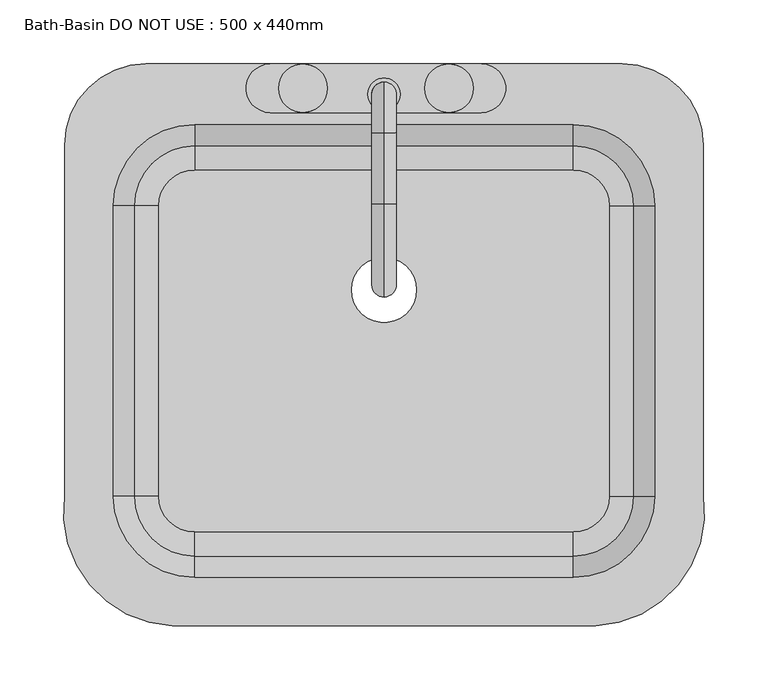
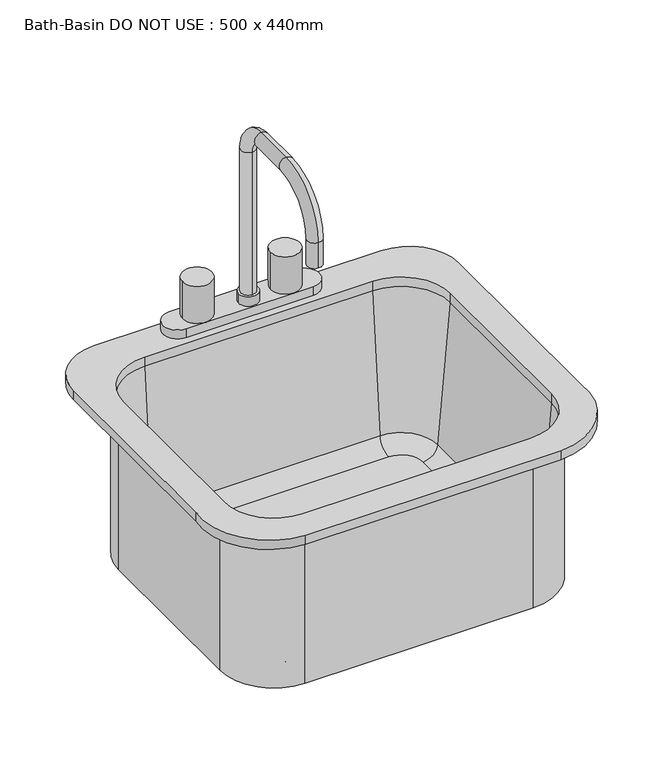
"""IFC4 building model written with IfcOpenShell, lengths in millimetres: flow terminal geometry, Bath-Basin DO NOT USE : 500 x 440mm."""

from ifc_helpers import new_model, si_unit, point, frame, origin, place, context, project, spatial, polyline, circle_curve, ellipse_curve, trimmed, source, transform, mapped, element, save
from ifc_brep_helpers import plane_surface, cylinder_surface, revolved_surface, advanced_brep


def bath_basin_do_not_use_500_x_440mm_14db80bf(model_context):
    return source(origin(), model_context, "Body", "AdvancedBrep", [
        advanced_brep(
        [(233.9208812, 69.0204011, 546.1), (164.0708812, 138.8704011, 546.1), (164.0708812, 138.8704011, 762.0), (233.9208812, 69.0204011, 762.0), (233.9208812, -158.2897551, 546.1), (164.0708812, -228.1397551, 546.1), (-132.6924001, -228.1397551, 546.1), (-202.5424001, -158.2897551, 546.1), (-202.5424001, 69.0204011, 546.1), (-132.6924001, 138.8704011, 546.1), (-9.7107594, 3.175, 546.1), (41.0892406, 3.175, 546.1), (192.0592994, 69.0204011, 555.625), (164.0708812, 97.0088193, 555.625), (-132.6924001, 97.0088193, 555.625), (-160.6808183, 69.0204011, 555.625), (-160.6808183, -158.2897551, 555.625), (-132.6924001, -186.2781733, 555.625), (164.0708812, -186.2781733, 555.625), (192.0592994, -158.2897551, 555.625), (-9.7107594, 3.175, 555.625), (41.0892406, 3.175, 555.625), (211.0368084, 69.0204011, 573.0146831), (164.0708812, 115.9863283, 573.0146831), (227.5708812, 69.0204011, 762.0), (164.0708812, 132.5204011, 762.0), (233.9208812, -158.2897551, 762.0), (211.0368084, -158.2897551, 573.0146831), (227.5708812, -158.2897551, 762.0), (164.0708812, -228.1397551, 762.0), (164.0708812, -205.2556823, 573.0146831), (164.0708812, -221.7897551, 762.0), (-132.6924001, -228.1397551, 762.0), (-132.6924001, -205.2556823, 573.0146831), (-132.6924001, -221.7897551, 762.0), (-202.5424001, -158.2897551, 762.0), (-179.6583273, -158.2897551, 573.0146831), (-196.1924001, -158.2897551, 762.0), (-202.5424001, 69.0204011, 762.0), (-179.6583273, 69.0204011, 573.0146831), (-196.1924001, 69.0204011, 762.0), (-132.6924001, 138.8704011, 762.0), (-132.6924001, 115.9863283, 573.0146831), (-132.6924001, 132.5204011, 762.0), (-149.942333, -259.8897551, 774.7), (181.3208141, -259.8897551, 774.7), (265.6708812, -158.2897551, 774.7), (265.6708812, 116.6454011, 774.7), (202.1708812, 180.1454011, 774.7), (-170.7924, 180.1454011, 774.7), (-234.2924, 116.6454011, 774.7), (-234.2924, -158.2897544, 774.7), (164.0708812, 132.5204011, 774.7), (227.5708812, 69.0204011, 774.7), (227.5708812, -158.2897551, 774.7), (164.0708812, -221.7897551, 774.7), (-132.6924001, -221.7897551, 774.7), (-196.1924001, -158.2897551, 774.7), (-196.1924001, 69.0204011, 774.7), (-132.6924001, 132.5204011, 774.7), (-149.942333, -259.8897551, 762.0), (-234.2924, -158.2897544, 762.0), (-234.2924, 116.6454011, 762.0), (-170.7924, 180.1454011, 762.0), (202.1708812, 180.1454011, 762.0), (265.6708812, 116.6454011, 762.0), (265.6708812, -158.2897551, 762.0), (181.3208141, -259.8897551, 762.0)],
        [
            (0, 1, circle_curve(frame((164.0708812, 69.0204011, 546.1), z_axis=(0.0, 0.0, 1.0), x_axis=(0.0, 1.0, 0.0)), 69.85)),
            (1, 2),
            (2, 3, circle_curve(frame((164.0708812, 69.0204011, 762.0), z_axis=(0.0, 0.0, -1.0), x_axis=(0.0, 1.0, 0.0)), 69.85)),
            (3, 0),
            (0, 4),
            (4, 5, circle_curve(frame((164.0708812, -158.2897551, 546.1), z_axis=(0.0, 0.0, -1.0), x_axis=(1.0, 0.0, 0.0)), 69.85)),
            (5, 6),
            (6, 7, circle_curve(frame((-132.6924001, -158.2897551, 546.1), z_axis=(0.0, 0.0, -1.0), x_axis=(0.0, -1.0, 0.0)), 69.85)),
            (7, 8),
            (8, 9, circle_curve(frame((-132.6924001, 69.0204011, 546.1), z_axis=(0.0, 0.0, -1.0), x_axis=(-1.0, 0.0, 0.0)), 69.85)),
            (9, 1),
            (10, 11, circle_curve(frame((15.6892406, 3.175, 546.1), z_axis=(0.0, 0.0, 1.0), x_axis=(1.0, 0.0, 0.0)), 25.4)),
            (11, 10, circle_curve(frame((15.6892406, 3.175, 546.1), z_axis=(0.0, 0.0, 1.0), x_axis=(1.0, 0.0, 0.0)), 25.4)),
            (12, 13, circle_curve(frame((164.0708812, 69.0204011, 555.625), z_axis=(0.0, 0.0, 1.0), x_axis=(0.0, 1.0, 0.0)), 27.9884182)),
            (13, 14),
            (14, 15, circle_curve(frame((-132.6924001, 69.0204011, 555.625), z_axis=(0.0, 0.0, 1.0), x_axis=(-1.0, 0.0, 0.0)), 27.9884182)),
            (15, 16),
            (16, 17, circle_curve(frame((-132.6924001, -158.2897551, 555.625), z_axis=(0.0, 0.0, 1.0), x_axis=(0.0, -1.0, 0.0)), 27.9884182)),
            (17, 18),
            (18, 19, circle_curve(frame((164.0708812, -158.2897551, 555.625), z_axis=(0.0, 0.0, 1.0), x_axis=(1.0, 0.0, 0.0)), 27.9884182)),
            (19, 12),
            (20, 21, circle_curve(frame((15.6892406, 3.175, 555.625), z_axis=(0.0, 0.0, -1.0), x_axis=(1.0, 0.0, 0.0)), 25.4)),
            (21, 20, circle_curve(frame((15.6892406, 3.175, 555.625), z_axis=(0.0, 0.0, -1.0), x_axis=(1.0, 0.0, 0.0)), 25.4)),
            (12, 22, circle_curve(frame((192.0592994, 69.0204011, 574.675), z_axis=(0.0, -1.0, 0.0), x_axis=(1.0, 0.0, 0.0)), 19.05)),
            (22, 23, circle_curve(frame((164.0708812, 69.0204011, 573.0146831), z_axis=(0.0, 0.0, 1.0), x_axis=(0.0, 1.0, 0.0)), 46.9659272)),
            (23, 13, circle_curve(frame((164.0708812, 97.0088193, 574.675), z_axis=(-1.0, 0.0, 0.0), x_axis=(0.0, 1.0, 0.0)), 19.05)),
            (22, 24),
            (24, 25, circle_curve(frame((164.0708812, 69.0204011, 762.0), z_axis=(0.0, 0.0, 1.0), x_axis=(0.0, 1.0, 0.0)), 63.5)),
            (25, 23),
            (3, 26),
            (26, 4),
            (19, 27, circle_curve(frame((192.0592994, -158.2897551, 574.675), z_axis=(0.0, -1.0, 0.0), x_axis=(1.0, 0.0, 0.0)), 19.05)),
            (27, 22),
            (27, 28),
            (28, 24),
            (26, 29, circle_curve(frame((164.0708812, -158.2897551, 762.0), z_axis=(0.0, 0.0, -1.0), x_axis=(1.0, 0.0, 0.0)), 69.85)),
            (29, 5),
            (18, 30, circle_curve(frame((164.0708812, -186.2781733, 574.675), z_axis=(-1.0, 0.0, 0.0), x_axis=(0.0, -1.0, 0.0)), 19.05)),
            (30, 27, circle_curve(frame((164.0708812, -158.2897551, 573.0146831), z_axis=(0.0, 0.0, 1.0), x_axis=(1.0, 0.0, 0.0)), 46.9659272)),
            (30, 31),
            (31, 28, circle_curve(frame((164.0708812, -158.2897551, 762.0), z_axis=(0.0, 0.0, 1.0), x_axis=(1.0, 0.0, 0.0)), 63.5)),
            (29, 32),
            (32, 6),
            (17, 33, circle_curve(frame((-132.6924001, -186.2781733, 574.675), z_axis=(-1.0, 0.0, 0.0), x_axis=(0.0, -1.0, 0.0)), 19.05)),
            (33, 30),
            (33, 34),
            (34, 31),
            (32, 35, circle_curve(frame((-132.6924001, -158.2897551, 762.0), z_axis=(0.0, 0.0, -1.0), x_axis=(0.0, -1.0, 0.0)), 69.85)),
            (35, 7),
            (16, 36, circle_curve(frame((-160.6808183, -158.2897551, 574.675), z_axis=(0.0, 1.0, 0.0), x_axis=(-1.0, 0.0, 0.0)), 19.05)),
            (36, 33, circle_curve(frame((-132.6924001, -158.2897551, 573.0146831), z_axis=(0.0, 0.0, 1.0), x_axis=(0.0, -1.0, 0.0)), 46.9659272)),
            (36, 37),
            (37, 34, circle_curve(frame((-132.6924001, -158.2897551, 762.0), z_axis=(0.0, 0.0, 1.0), x_axis=(0.0, -1.0, 0.0)), 63.5)),
            (35, 38),
            (38, 8),
            (15, 39, circle_curve(frame((-160.6808183, 69.0204011, 574.675), z_axis=(0.0, 1.0, 0.0), x_axis=(-1.0, 0.0, 0.0)), 19.05)),
            (39, 36),
            (39, 40),
            (40, 37),
            (38, 41, circle_curve(frame((-132.6924001, 69.0204011, 762.0), z_axis=(0.0, 0.0, -1.0), x_axis=(-1.0, 0.0, 0.0)), 69.85)),
            (41, 9),
            (14, 42, circle_curve(frame((-132.6924001, 97.0088193, 574.675), z_axis=(1.0, 0.0, 0.0), x_axis=(0.0, 1.0, 0.0)), 19.05)),
            (42, 39, circle_curve(frame((-132.6924001, 69.0204011, 573.0146831), z_axis=(0.0, 0.0, 1.0), x_axis=(-1.0, 0.0, 0.0)), 46.9659272)),
            (42, 43),
            (43, 40, circle_curve(frame((-132.6924001, 69.0204011, 762.0), z_axis=(0.0, 0.0, 1.0), x_axis=(-1.0, 0.0, 0.0)), 63.5)),
            (41, 2),
            (23, 42),
            (25, 43),
            (20, 10),
            (11, 21),
            (44, 45),
            (45, 46, circle_curve(frame((177.5135964, -170.9144994, 774.7), z_axis=(0.0, 0.0, 1.0), x_axis=(1.0, 0.0, 0.0)), 89.0566732)),
            (46, 47),
            (47, 48, circle_curve(frame((202.1708812, 116.6454011, 774.7), z_axis=(0.0, 0.0, 1.0), x_axis=(1.0, 0.0, 0.0)), 63.5)),
            (48, 49),
            (49, 50, circle_curve(frame((-170.7924, 116.6454011, 774.7), z_axis=(0.0, 0.0, 1.0), x_axis=(1.0, 0.0, 0.0)), 63.5)),
            (50, 51),
            (51, 44, circle_curve(frame((-146.1351153, -170.9144994, 774.7), z_axis=(0.0, 0.0, 1.0), x_axis=(1.0, 0.0, 0.0)), 89.0566732)),
            (52, 53, circle_curve(frame((164.0708812, 69.0204011, 774.7), z_axis=(0.0, 0.0, -1.0), x_axis=(1.0, 0.0, 0.0)), 63.5)),
            (53, 54),
            (54, 55, circle_curve(frame((164.0708812, -158.2897551, 774.7), z_axis=(0.0, 0.0, -1.0), x_axis=(1.0, 0.0, 0.0)), 63.5)),
            (55, 56),
            (56, 57, circle_curve(frame((-132.6924001, -158.2897551, 774.7), z_axis=(0.0, 0.0, -1.0), x_axis=(1.0, 0.0, 0.0)), 63.5)),
            (57, 58),
            (58, 59, circle_curve(frame((-132.6924001, 69.0204011, 774.7), z_axis=(0.0, 0.0, -1.0), x_axis=(1.0, 0.0, 0.0)), 63.5)),
            (59, 52),
            (60, 61, circle_curve(frame((-146.1351153, -170.9144994, 762.0), z_axis=(0.0, 0.0, -1.0), x_axis=(1.0, 0.0, 0.0)), 89.0566732)),
            (61, 62),
            (62, 63, circle_curve(frame((-170.7924, 116.6454011, 762.0), z_axis=(0.0, 0.0, -1.0), x_axis=(1.0, 0.0, 0.0)), 63.5)),
            (63, 64),
            (64, 65, circle_curve(frame((202.1708812, 116.6454011, 762.0), z_axis=(0.0, 0.0, -1.0), x_axis=(1.0, 0.0, 0.0)), 63.5)),
            (65, 66),
            (66, 67, circle_curve(frame((177.5135964, -170.9144994, 762.0), z_axis=(0.0, 0.0, -1.0), x_axis=(1.0, 0.0, 0.0)), 89.0566732)),
            (67, 60),
            (44, 60),
            (67, 45),
            (66, 46),
            (65, 47),
            (64, 48),
            (63, 49),
            (62, 50),
            (61, 51),
            (52, 25),
            (24, 53),
            (28, 54),
            (31, 55),
            (34, 56),
            (37, 57),
            (40, 58),
            (43, 59),
        ],
        [
            cylinder_surface(frame((164.0708812, 69.0204011, 0.0), z_axis=(0.0, 0.0, -1.0), x_axis=(0.0, 1.0, 0.0)), 69.85),
            plane_surface(frame((164.0708812, 69.0204011, 546.1), z_axis=(0.0, 0.0, -1.0), x_axis=(0.0, 1.0, 0.0))),
            plane_surface(frame((164.0708812, 69.0204011, 555.625), z_axis=(0.0, 0.0, 1.0), x_axis=(0.0, 1.0, 0.0))),
            revolved_surface(trimmed(ellipse_curve(frame((164.0708812, 97.0088193, 574.675), z_axis=(1.0, 0.0, 0.0), x_axis=(0.0, 1.0, 0.0)), 19.05, 19.05), [point((164.0708812, 97.0088193, 555.625))], [point((164.0708812, 115.9863283, 573.0146831))], True, "CARTESIAN"), (164.0708812, 69.0204011, 0.0), (0.0, 0.0, -1.0)),
            revolved_surface(polyline([(164.0708812, 115.9863283, 573.0146831), (164.0708812, 132.5204011, 762.0)]), (164.0708812, 69.0204011, 0.0), (0.0, 0.0, -1.0)),
            plane_surface(frame((233.9208812, 69.0204011, 762.0), z_axis=(1.0, 0.0, 0.0), x_axis=(0.0, -1.0, 0.0))),
            revolved_surface(polyline([(211.1092994, -158.28975509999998, 574.675), (211.1092994, 69.0204011, 574.675)]), (192.0592994, 69.0204011, 574.675), (0.0, -1.0, 0.0)),
            plane_surface(frame((211.0368084, 69.0204011, 573.0146831), z_axis=(-0.9961946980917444, 0.0, 0.08715574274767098), x_axis=(0.0, -1.0, 0.0))),
            cylinder_surface(frame((164.0708812, -158.2897551, 0.0), z_axis=(0.0, 0.0, -1.0), x_axis=(1.0, 0.0, 0.0)), 69.85),
            revolved_surface(trimmed(ellipse_curve(frame((192.0592994, -158.2897551, 574.675), z_axis=(0.0, -1.0, 0.0), x_axis=(1.0, 0.0, 0.0)), 19.05, 19.05), [point((192.0592994, -158.2897551, 555.625))], [point((211.0368084, -158.2897551, 573.0146831))], True, "CARTESIAN"), (164.0708812, -158.2897551, 0.0), (0.0, 0.0, -1.0)),
            revolved_surface(polyline([(211.0368084, -158.2897551, 573.0146831), (227.5708812, -158.2897551, 762.0)]), (164.0708812, -158.2897551, 0.0), (0.0, 0.0, -1.0)),
            plane_surface(frame((164.0708812, -228.1397551, 762.0), z_axis=(0.0, -1.0, 0.0), x_axis=(-1.0, 0.0, 0.0))),
            revolved_surface(polyline([(-132.69240010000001, -205.3281733, 574.675), (164.0708812, -205.3281733, 574.675)]), (164.0708812, -186.2781733, 574.675), (-1.0, 0.0, 0.0)),
            plane_surface(frame((164.0708812, -205.2556823, 573.0146831), z_axis=(0.0, 0.9961946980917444, 0.08715574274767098), x_axis=(-1.0, 0.0, 0.0))),
            cylinder_surface(frame((-132.6924001, -158.2897551, 0.0), z_axis=(0.0, 0.0, -1.0), x_axis=(0.0, -1.0, 0.0)), 69.85),
            revolved_surface(trimmed(ellipse_curve(frame((-132.6924001, -186.2781733, 574.675), z_axis=(-1.0, 0.0, 0.0), x_axis=(0.0, -1.0, 0.0)), 19.05, 19.05), [point((-132.6924001, -186.2781733, 555.625))], [point((-132.6924001, -205.2556823, 573.0146831))], True, "CARTESIAN"), (-132.6924001, -158.2897551, 0.0), (0.0, 0.0, -1.0)),
            revolved_surface(polyline([(-132.6924001, -205.2556823, 573.0146831), (-132.6924001, -221.7897551, 762.0)]), (-132.6924001, -158.2897551, 0.0), (0.0, 0.0, -1.0)),
            plane_surface(frame((-202.5424001, -158.2897551, 762.0), z_axis=(-1.0, 0.0, 0.0), x_axis=(0.0, 1.0, 0.0))),
            revolved_surface(polyline([(-179.7308183, 69.02040109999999, 574.675), (-179.7308183, -158.2897551, 574.675)]), (-160.6808183, -158.2897551, 574.675), (0.0, 1.0, 0.0)),
            plane_surface(frame((-179.6583273, -158.2897551, 573.0146831), z_axis=(0.9961946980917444, 0.0, 0.08715574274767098), x_axis=(0.0, 1.0, 0.0))),
            cylinder_surface(frame((-132.6924001, 69.0204011, 0.0), z_axis=(0.0, 0.0, -1.0), x_axis=(-1.0, 0.0, 0.0)), 69.85),
            revolved_surface(trimmed(ellipse_curve(frame((-160.6808183, 69.0204011, 574.675), z_axis=(0.0, 1.0, 0.0), x_axis=(-1.0, 0.0, 0.0)), 19.05, 19.05), [point((-160.6808183, 69.0204011, 555.625))], [point((-179.6583273, 69.0204011, 573.0146831))], True, "CARTESIAN"), (-132.6924001, 69.0204011, 0.0), (0.0, 0.0, -1.0)),
            revolved_surface(polyline([(-179.6583273, 69.0204011, 573.0146831), (-196.1924001, 69.0204011, 762.0)]), (-132.6924001, 69.0204011, 0.0), (0.0, 0.0, -1.0)),
            plane_surface(frame((-132.6924001, 138.8704011, 762.0), z_axis=(0.0, 1.0, 0.0), x_axis=(1.0, 0.0, 0.0))),
            revolved_surface(polyline([(164.07088120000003, 116.0588193, 574.675), (-132.6924001, 116.0588193, 574.675)]), (-132.6924001, 97.0088193, 574.675), (1.0, 0.0, 0.0)),
            plane_surface(frame((-132.6924001, 115.9863283, 573.0146831), z_axis=(0.0, -0.9961946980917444, 0.08715574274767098), x_axis=(1.0, 0.0, 0.0))),
            revolved_surface(polyline([(41.0892406, 3.175, 546.1), (41.0892406, 3.175, 555.625)]), (15.6892406, 3.175, 0.0), (0.0, 0.0, -1.0)),
            plane_surface(frame((181.3208141, -259.8897551, 774.7), z_axis=(0.0, 0.0, 1.0), x_axis=(1.0, 0.0, 0.0))),
            plane_surface(frame((181.3208141, -259.8897551, 762.0), z_axis=(0.0, 0.0, -1.0), x_axis=(-1.0, 0.0, 0.0))),
            plane_surface(frame((-149.942333, -259.8897551, 774.7), z_axis=(0.0, -1.0, 0.0), x_axis=(0.0, 0.0, -1.0))),
            cylinder_surface(frame((177.5135964, -170.9144994, 762.0), z_axis=(0.0, 0.0, 1.0), x_axis=(1.0, 0.0, 0.0)), 89.0566732),
            plane_surface(frame((265.6708812, -158.2897551, 774.7), z_axis=(1.0, 0.0, 0.0), x_axis=(0.0, 0.0, -1.0))),
            cylinder_surface(frame((202.1708812, 116.6454011, 762.0), z_axis=(0.0, 0.0, 1.0), x_axis=(1.0, 0.0, 0.0)), 63.5),
            plane_surface(frame((202.1708812, 180.1454011, 774.7), z_axis=(0.0, 1.0, 0.0), x_axis=(0.0, 0.0, -1.0))),
            cylinder_surface(frame((-170.7924, 116.6454011, 762.0), z_axis=(0.0, 0.0, 1.0), x_axis=(1.0, 0.0, 0.0)), 63.5),
            plane_surface(frame((-234.2924, 116.6454011, 774.7), z_axis=(-1.0, 0.0, 0.0), x_axis=(0.0, 0.0, -1.0))),
            cylinder_surface(frame((-146.1351153, -170.9144994, 762.0), z_axis=(0.0, 0.0, 1.0), x_axis=(1.0, 0.0, 0.0)), 89.0566732),
            revolved_surface(polyline([(227.5708812, 69.0204011, 762.0), (227.5708812, 69.0204011, 774.7)]), (164.0708812, 69.0204011, 0.0), (0.0, 0.0, -1.0)),
            plane_surface(frame((227.5708812, 69.0204011, 774.7), z_axis=(-1.0, 0.0, 0.0), x_axis=(0.0, 0.0, -1.0))),
            revolved_surface(polyline([(227.5708812, -158.2897551, 762.0), (227.5708812, -158.2897551, 774.7)]), (164.0708812, -158.2897551, 0.0), (0.0, 0.0, -1.0)),
            plane_surface(frame((164.0708812, -221.7897551, 774.7), z_axis=(0.0, 1.0, 0.0), x_axis=(0.0, 0.0, -1.0))),
            revolved_surface(polyline([(-69.19240009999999, -158.2897551, 762.0), (-69.19240009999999, -158.2897551, 774.7)]), (-132.6924001, -158.2897551, 0.0), (0.0, 0.0, -1.0)),
            plane_surface(frame((-196.1924001, -158.2897551, 774.7), z_axis=(1.0, 0.0, 0.0), x_axis=(0.0, 0.0, -1.0))),
            revolved_surface(polyline([(-69.19240009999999, 69.0204011, 762.0), (-69.19240009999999, 69.0204011, 774.7)]), (-132.6924001, 69.0204011, 0.0), (0.0, 0.0, -1.0)),
            plane_surface(frame((-132.6924001, 132.5204011, 774.7), z_axis=(0.0, -1.0, 0.0), x_axis=(0.0, 0.0, -1.0))),
        ],
        [
            (0, [[1, 2, 3, 4]]),
            (1, [[-1, 5, 6, 7, 8, 9, 10, 11], [12, 13]]),
            (2, [[14, 15, 16, 17, 18, 19, 20, 21], [22, 23]]),
            (3, [[-14, 24, 25, 26]]),
            (4, [[-25, 27, 28, 29]]),
            (5, [[-4, 30, 31, -5]]),
            (6, [[-24, -21, 32, 33]]),
            (7, [[-27, -33, 34, 35]]),
            (8, [[-31, 36, 37, -6]]),
            (9, [[-32, -20, 38, 39]]),
            (10, [[-34, -39, 40, 41]]),
            (11, [[-37, 42, 43, -7]]),
            (12, [[-38, -19, 44, 45]]),
            (13, [[-40, -45, 46, 47]]),
            (14, [[-43, 48, 49, -8]]),
            (15, [[-44, -18, 50, 51]]),
            (16, [[-46, -51, 52, 53]]),
            (17, [[-49, 54, 55, -9]]),
            (18, [[-50, -17, 56, 57]]),
            (19, [[-52, -57, 58, 59]]),
            (20, [[-55, 60, 61, -10]]),
            (21, [[-56, -16, 62, 63]]),
            (22, [[-58, -63, 64, 65]]),
            (23, [[-2, -11, -61, 66]]),
            (24, [[-26, 67, -62, -15]]),
            (25, [[-29, 68, -64, -67]]),
            (26, [[-22, 69, -13, 70]]),
            (26, [[-23, -70, -12, -69]]),
            (27, [[71, 72, 73, 74, 75, 76, 77, 78], [79, 80, 81, 82, 83, 84, 85, 86]]),
            (28, [[87, 88, 89, 90, 91, 92, 93, 94], [-3, -66, -60, -54, -48, -42, -36, -30]]),
            (29, [[-71, 95, -94, 96]]),
            (30, [[-72, -96, -93, 97]]),
            (31, [[-73, -97, -92, 98]]),
            (32, [[-74, -98, -91, 99]]),
            (33, [[-75, -99, -90, 100]]),
            (34, [[-76, -100, -89, 101]]),
            (35, [[-77, -101, -88, 102]]),
            (36, [[-78, -102, -87, -95]]),
            (37, [[-79, 103, -28, 104]]),
            (38, [[-80, -104, -35, 105]]),
            (39, [[-81, -105, -41, 106]]),
            (40, [[-82, -106, -47, 107]]),
            (41, [[-83, -107, -53, 108]]),
            (42, [[-84, -108, -59, 109]]),
            (43, [[-85, -109, -65, 110]]),
            (44, [[-86, -110, -68, -103]]),
        ],
    ),
        advanced_brep(
        [(91.8892406, 180.1454011, 774.7), (91.8892406, 142.0454011, 774.7), (66.4892406, 142.0454011, 774.7), (-47.8107594, 142.0454011, 774.7), (-73.2107594, 142.0454011, 774.7), (-73.2107594, 180.1454011, 774.7), (-47.8107594, 180.1454011, 774.7), (66.4892406, 180.1454011, 774.7), (15.6892406, 165.8579011, 995.3625), (15.6892406, 146.8079011, 995.3625), (15.6892406, 146.8079011, 800.1), (15.6892406, 165.8579011, 800.1), (15.6892406, 126.1704011, 1035.05), (15.6892406, 126.1704011, 1016.0), (15.6892406, 70.6079011, 1035.05), (15.6892406, 70.6079011, 1016.0), (15.6892406, -2.4170989, 962.025), (15.6892406, 16.6329011, 962.025), (15.6892406, -2.4170989, 927.1), (15.6892406, 16.6329011, 927.1), (2.9892406, 156.3329011, 800.1), (28.3892406, 156.3329011, 800.1), (2.9892406, 156.3329011, 787.2), (28.3892406, 156.3329011, 787.2), (-73.2107594, 180.1454011, 787.2), (-73.2107594, 142.0454011, 787.2), (-47.8107594, 142.0454011, 787.2), (-66.8607594, 161.0954011, 787.2), (-47.8107594, 180.1454011, 787.2), (91.8892406, 142.0454011, 787.2), (91.8892406, 180.1454011, 787.2), (66.4892406, 180.1454011, 787.2), (85.5392406, 161.0954011, 787.2), (66.4892406, 142.0454011, 787.2), (-28.7607594, 161.0954011, 787.2), (47.4392406, 161.0954011, 787.2), (-66.8607594, 161.0954011, 838.2), (-28.7607594, 161.0954011, 838.2), (47.4392406, 161.0954011, 838.2), (85.5392406, 161.0954011, 838.2)],
        [
            (0, 1, circle_curve(frame((91.8892406, 161.0954011, 774.7), z_axis=(0.0, 0.0, -1.0), x_axis=(1.0, 0.0, 0.0)), 19.05)),
            (1, 2),
            (2, 3),
            (3, 4),
            (4, 5, circle_curve(frame((-73.2107594, 161.0954011, 774.7), z_axis=(0.0, 0.0, -1.0), x_axis=(1.0, 0.0, 0.0)), 19.05)),
            (5, 6),
            (6, 7),
            (7, 0),
            (8, 9, circle_curve(frame((15.6892406, 156.3329011, 995.3625), z_axis=(0.0, 0.0, -1.0), x_axis=(0.0, -1.0, 0.0)), 9.525)),
            (9, 10),
            (10, 11, circle_curve(frame((15.6892406, 156.3329011, 800.1), z_axis=(0.0, 0.0, 1.0), x_axis=(0.0, -1.0, 0.0)), 9.525)),
            (11, 8),
            (9, 8, circle_curve(frame((15.6892406, 156.3329011, 995.3625), z_axis=(0.0, 0.0, -1.0), x_axis=(0.0, -1.0, 0.0)), 9.525)),
            (11, 10, circle_curve(frame((15.6892406, 156.3329011, 800.1), z_axis=(0.0, 0.0, 1.0), x_axis=(0.0, -1.0, 0.0)), 9.525)),
            (8, 12, circle_curve(frame((15.6892406, 126.1704011, 995.3625), z_axis=(1.0, 0.0, 0.0), x_axis=(0.0, 1.0, 0.0)), 39.6875)),
            (12, 13, circle_curve(frame((15.6892406, 126.1704011, 1025.525), z_axis=(0.0, 1.0, 0.0), x_axis=(0.0, 0.0, -1.0)), 9.525)),
            (13, 9, circle_curve(frame((15.6892406, 126.1704011, 995.3625), z_axis=(-1.0, 0.0, 0.0), x_axis=(0.0, 1.0, 0.0)), 20.6375)),
            (13, 12, circle_curve(frame((15.6892406, 126.1704011, 1025.525), z_axis=(0.0, 1.0, 0.0), x_axis=(0.0, 0.0, -1.0)), 9.525)),
            (12, 14),
            (14, 15, circle_curve(frame((15.6892406, 70.6079011, 1025.525), z_axis=(0.0, 1.0, 0.0), x_axis=(0.0, 0.0, -1.0)), 9.525)),
            (15, 13),
            (15, 14, circle_curve(frame((15.6892406, 70.6079011, 1025.525), z_axis=(0.0, 1.0, 0.0), x_axis=(0.0, 0.0, -1.0)), 9.525)),
            (14, 16, circle_curve(frame((15.6892406, 70.6079011, 962.025), z_axis=(1.0, 0.0, 0.0), x_axis=(0.0, 0.0, 1.0)), 73.025)),
            (16, 17, circle_curve(frame((15.6892406, 7.1079011, 962.025), z_axis=(0.0, 0.0, 1.0), x_axis=(0.0, 1.0, 0.0)), 9.525)),
            (17, 15, circle_curve(frame((15.6892406, 70.6079011, 962.025), z_axis=(-1.0, 0.0, 0.0), x_axis=(0.0, 0.0, 1.0)), 53.975)),
            (17, 16, circle_curve(frame((15.6892406, 7.1079011, 962.025), z_axis=(0.0, 0.0, 1.0), x_axis=(0.0, 1.0, 0.0)), 9.525)),
            (18, 19, circle_curve(frame((15.6892406, 7.1079011, 927.1), z_axis=(0.0, 0.0, -1.0), x_axis=(0.0, 1.0, 0.0)), 9.525)),
            (19, 18, circle_curve(frame((15.6892406, 7.1079011, 927.1), z_axis=(0.0, 0.0, -1.0), x_axis=(0.0, 1.0, 0.0)), 9.525)),
            (16, 18),
            (19, 17),
            (20, 21, circle_curve(frame((15.6892406, 156.3329011, 800.1), z_axis=(0.0, 0.0, 1.0), x_axis=(1.0, 0.0, 0.0)), 12.7)),
            (21, 20, circle_curve(frame((15.6892406, 156.3329011, 800.1), z_axis=(0.0, 0.0, 1.0), x_axis=(1.0, 0.0, 0.0)), 12.7)),
            (20, 22),
            (22, 23, circle_curve(frame((15.6892406, 156.3329011, 787.2), z_axis=(0.0, 0.0, 1.0), x_axis=(1.0, 0.0, 0.0)), 12.7)),
            (23, 21),
            (23, 22, circle_curve(frame((15.6892406, 156.3329011, 787.2), z_axis=(0.0, 0.0, 1.0), x_axis=(1.0, 0.0, 0.0)), 12.7)),
            (24, 25, circle_curve(frame((-73.2107594, 161.0954011, 787.2), z_axis=(0.0, 0.0, 1.0), x_axis=(1.0, 0.0, 0.0)), 19.05)),
            (25, 26),
            (26, 27, circle_curve(frame((-47.8107594, 161.0954011, 787.2), z_axis=(0.0, 0.0, -1.0), x_axis=(1.0, 0.0, 0.0)), 19.05)),
            (27, 28, circle_curve(frame((-47.8107594, 161.0954011, 787.2), z_axis=(0.0, 0.0, -1.0), x_axis=(1.0, 0.0, 0.0)), 19.05)),
            (28, 24),
            (29, 30, circle_curve(frame((91.8892406, 161.0954011, 787.2), z_axis=(0.0, 0.0, 1.0), x_axis=(1.0, 0.0, 0.0)), 19.05)),
            (30, 31),
            (31, 32, circle_curve(frame((66.4892406, 161.0954011, 787.2), z_axis=(0.0, 0.0, -1.0), x_axis=(1.0, 0.0, 0.0)), 19.05)),
            (32, 33, circle_curve(frame((66.4892406, 161.0954011, 787.2), z_axis=(0.0, 0.0, -1.0), x_axis=(1.0, 0.0, 0.0)), 19.05)),
            (33, 29),
            (31, 28),
            (28, 34, circle_curve(frame((-47.8107594, 161.0954011, 787.2), z_axis=(0.0, 0.0, -1.0), x_axis=(1.0, 0.0, 0.0)), 19.05)),
            (34, 26, circle_curve(frame((-47.8107594, 161.0954011, 787.2), z_axis=(0.0, 0.0, -1.0), x_axis=(1.0, 0.0, 0.0)), 19.05)),
            (26, 33),
            (33, 35, circle_curve(frame((66.4892406, 161.0954011, 787.2), z_axis=(0.0, 0.0, -1.0), x_axis=(1.0, 0.0, 0.0)), 19.05)),
            (35, 31, circle_curve(frame((66.4892406, 161.0954011, 787.2), z_axis=(0.0, 0.0, -1.0), x_axis=(1.0, 0.0, 0.0)), 19.05)),
            (30, 0),
            (5, 24),
            (4, 25),
            (1, 29),
            (36, 37, circle_curve(frame((-47.8107594, 161.0954011, 838.2), z_axis=(0.0, 0.0, 1.0), x_axis=(1.0, 0.0, 0.0)), 19.05)),
            (37, 36, circle_curve(frame((-47.8107594, 161.0954011, 838.2), z_axis=(0.0, 0.0, 1.0), x_axis=(1.0, 0.0, 0.0)), 19.05)),
            (38, 39, circle_curve(frame((66.4892406, 161.0954011, 838.2), z_axis=(0.0, 0.0, 1.0), x_axis=(1.0, 0.0, 0.0)), 19.05)),
            (39, 38, circle_curve(frame((66.4892406, 161.0954011, 838.2), z_axis=(0.0, 0.0, 1.0), x_axis=(1.0, 0.0, 0.0)), 19.05)),
            (36, 27),
            (34, 37),
            (38, 35),
            (32, 39),
        ],
        [
            plane_surface(frame((15.6892406, 146.8079011, 774.7), z_axis=(0.0, 0.0, -1.0), x_axis=(1.0, 0.0, 0.0))),
            cylinder_surface(frame((15.6892406, 156.3329011, 774.7), z_axis=(0.0, 0.0, -1.0), x_axis=(0.0, -1.0, 0.0)), 9.525),
            revolved_surface(trimmed(ellipse_curve(frame((15.6892406, 156.3329011, 995.3625), z_axis=(0.0, 0.0, -1.0), x_axis=(0.0, -1.0, 0.0)), 9.525, 9.525), [point((15.6892406, 165.8579011, 995.3625))], [point((15.6892406, 146.8079011, 995.3625))], True, "CARTESIAN"), (15.6892406, 126.1704011, 995.3625), (1.0, 0.0, 0.0)),
            revolved_surface(trimmed(ellipse_curve(frame((15.6892406, 156.3329011, 995.3625), z_axis=(0.0, 0.0, -1.0), x_axis=(0.0, -1.0, 0.0)), 9.525, 9.525), [point((15.6892406, 146.8079011, 995.3625))], [point((15.6892406, 165.8579011, 995.3625))], True, "CARTESIAN"), (15.6892406, 126.1704011, 995.3625), (1.0, 0.0, 0.0)),
            cylinder_surface(frame((15.6892406, 126.1704011, 1025.525), z_axis=(0.0, 1.0, 0.0), x_axis=(0.0, 0.0, -1.0)), 9.525),
            revolved_surface(trimmed(ellipse_curve(frame((15.6892406, 70.6079011, 1025.525), z_axis=(0.0, 1.0, 0.0), x_axis=(0.0, 0.0, -1.0)), 9.525, 9.525), [point((15.6892406, 70.6079011, 1035.05))], [point((15.6892406, 70.6079011, 1016.0))], True, "CARTESIAN"), (15.6892406, 70.6079011, 962.025), (1.0, 0.0, 0.0)),
            revolved_surface(trimmed(ellipse_curve(frame((15.6892406, 70.6079011, 1025.525), z_axis=(0.0, 1.0, 0.0), x_axis=(0.0, 0.0, -1.0)), 9.525, 9.525), [point((15.6892406, 70.6079011, 1016.0))], [point((15.6892406, 70.6079011, 1035.05))], True, "CARTESIAN"), (15.6892406, 70.6079011, 962.025), (1.0, 0.0, 0.0)),
            plane_surface(frame((15.6892406, -2.4170989, 927.1), z_axis=(0.0, 0.0, -1.0), x_axis=(-1.0, 0.0, 0.0))),
            cylinder_surface(frame((15.6892406, 7.1079011, 962.025), z_axis=(0.0, 0.0, 1.0), x_axis=(0.0, 1.0, 0.0)), 9.525),
            plane_surface(frame((28.3892406, 156.3329011, 800.1), z_axis=(0.0, 0.0, 1.0), x_axis=(0.0, 1.0, 0.0))),
            cylinder_surface(frame((15.6892406, 156.3329011, 774.7), z_axis=(0.0, 0.0, 1.0), x_axis=(1.0, 0.0, 0.0)), 12.7),
            plane_surface(frame((-73.2107594, 180.1454011, 787.2), z_axis=(0.0, 0.0, 1.0), x_axis=(-1.0, 0.0, 0.0))),
            plane_surface(frame((91.8892406, 180.1454011, 787.2), z_axis=(0.0, 1.0, 0.0), x_axis=(0.0, 0.0, -1.0))),
            cylinder_surface(frame((-73.2107594, 161.0954011, 774.7), z_axis=(0.0, 0.0, 1.0), x_axis=(1.0, 0.0, 0.0)), 19.05),
            plane_surface(frame((-73.2107594, 142.0454011, 787.2), z_axis=(0.0, -1.0, 0.0), x_axis=(0.0, 0.0, -1.0))),
            cylinder_surface(frame((91.8892406, 161.0954011, 774.7), z_axis=(0.0, 0.0, 1.0), x_axis=(1.0, 0.0, 0.0)), 19.05),
            plane_surface(frame((-28.7607594, 161.0954011, 838.2), z_axis=(0.0, 0.0, 1.0), x_axis=(0.0, 1.0, 0.0))),
            cylinder_surface(frame((-47.8107594, 161.0954011, 774.7), z_axis=(0.0, 0.0, 1.0), x_axis=(1.0, 0.0, 0.0)), 19.05),
            cylinder_surface(frame((66.4892406, 161.0954011, 0.0), z_axis=(0.0, 0.0, 1.0), x_axis=(1.0, 0.0, 0.0)), 19.05),
        ],
        [
            (0, [[1, 2, 3, 4, 5, 6, 7, 8]]),
            (1, [[9, 10, 11, 12]]),
            (1, [[13, -12, 14, -10]]),
            (2, [[-9, 15, 16, 17]]),
            (3, [[-13, -17, 18, -15]]),
            (4, [[-16, 19, 20, 21]]),
            (4, [[-18, -21, 22, -19]]),
            (5, [[-20, 23, 24, 25]]),
            (6, [[-22, -25, 26, -23]]),
            (7, [[27, 28]]),
            (8, [[-24, 29, -28, 30]]),
            (8, [[-26, -30, -27, -29]]),
            (9, [[31, 32], [-11, -14]]),
            (10, [[-31, 33, 34, 35]]),
            (10, [[-32, -35, 36, -33]]),
            (11, [[37, 38, 39, 40, 41]]),
            (11, [[42, 43, 44, 45, 46]]),
            (11, [[47, 48, 49, 50, 51, 52], [-34, -36]]),
            (12, [[53, -8, -7, -6, 54, -41, -47, -43]]),
            (13, [[-37, -54, -5, 55]]),
            (14, [[-55, -4, -3, -2, 56, -46, -50, -38]]),
            (15, [[-42, -56, -1, -53]]),
            (16, [[57, 58]]),
            (16, [[59, 60]]),
            (17, [[-57, 61, -39, -49, 62]]),
            (17, [[-58, -62, -48, -40, -61]]),
            (18, [[-59, 63, -51, -45, 64]]),
            (18, [[-60, -64, -44, -52, -63]]),
        ],
    ),
    ])


if __name__ == "__main__":
    model = new_model("IFC4")
    model_context = context("Model", 3, world=origin())
    ifc_project = project(units=[si_unit("LENGTHUNIT", "METRE", prefix="MILLI")], contexts=[model_context])
    site = spatial("IfcSite", under=ifc_project)
    building = spatial("IfcBuilding", under=site)
    placement = place(None, origin())
    bath_basin_do_not_use_500_x_440mm_shape = bath_basin_do_not_use_500_x_440mm_14db80bf(model_context)
    element("IfcFlowTerminal", 1, ObjectType="Bath-Basin DO NOT USE : 500 x 440mm", at=placement, inside=building, context=model_context, shape_type="MappedRepresentation", body=[
        mapped(bath_basin_do_not_use_500_x_440mm_shape, transform((0.0, 0.0, 0.0), x_axis=(1.0, 0.0, 0.0), y_axis=(0.0, 1.0, 0.0), z_axis=(0.0, 0.0, 1.0))),
    ])
    save(model, "model.ifc")
